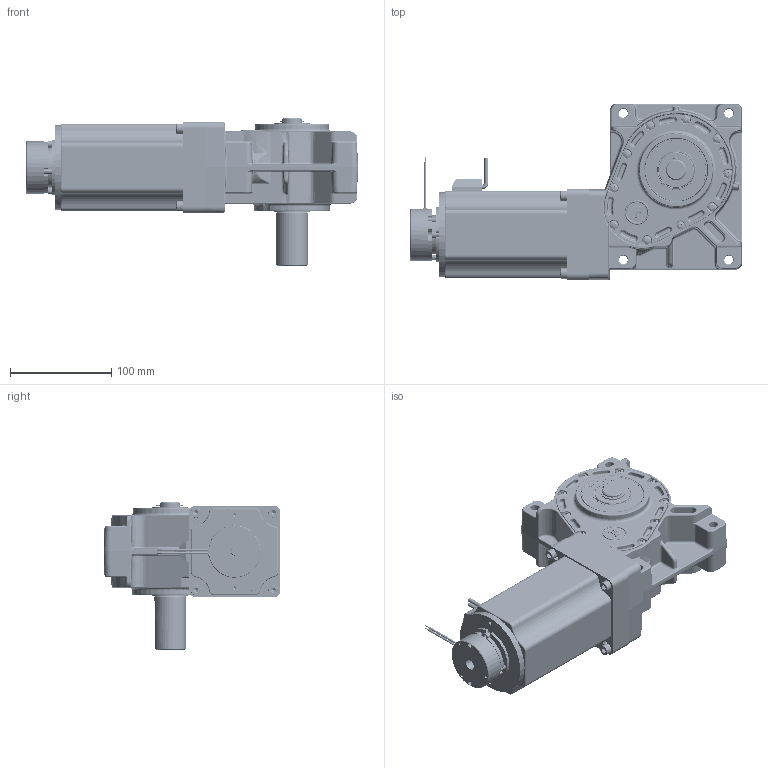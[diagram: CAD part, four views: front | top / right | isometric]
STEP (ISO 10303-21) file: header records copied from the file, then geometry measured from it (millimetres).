
FILE_DESCRIPTION (( 'STEP AP214' ), '1' );
FILE_NAME ('PBL86-80-GB65 - Brake - Shaft.STEP', '2024-09-15T11:01:31', ( '' ), ( '' ), 'SwSTEP 2.0', 'SolidWorks 2023', '' );
FILE_SCHEMA (( 'AUTOMOTIVE_DESIGN' ));
Length unit declared in the file: millimetre
Products named in the file (1): PBL86-80-GB65 - Brake - Shaft
Bounding box: 327.19 x 174.1 x 145 mm (x, y, z)
Surface area: 416923.6 mm2 (no closed solid volume)
Topology: 0 solids, 75 shells, 5637 faces, 14135 edges, 8609 vertices
Faces by surface type: cylinder 1784, bspline 1217, plane 1175, torus 710, cone 591, sphere 160
Entity records: 291383 total; most frequent: CARTESIAN_POINT 102630, ORIENTED_EDGE 27676, DIRECTION 25205, EDGE_CURVE 13840, AXIS2_PLACEMENT_3D 10299, VERTEX_POINT 8589, EDGE_LOOP 5986, CIRCLE 5878
